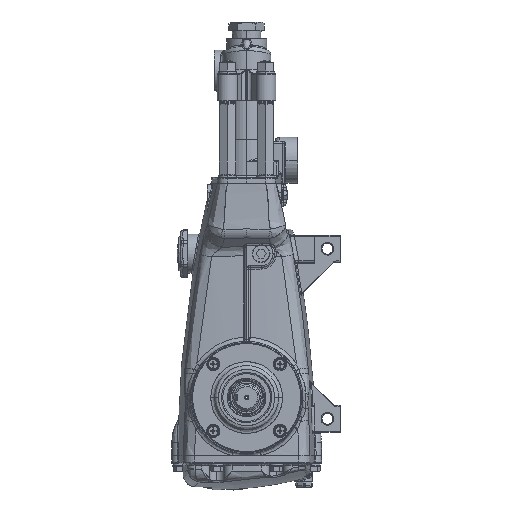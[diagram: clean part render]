
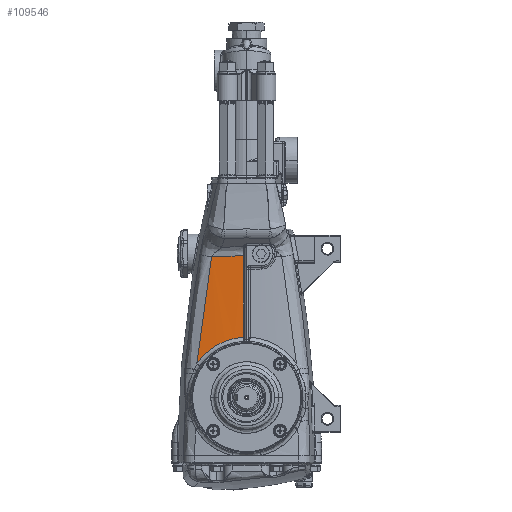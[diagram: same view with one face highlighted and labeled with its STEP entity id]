
A CAD part, left-side view. The second image highlights one B-rep face of the part: STEP entity #109546.
In plain terms, the highlighted cylindrical face has radius 600 mm (diameter 1200 mm), a partial arc.
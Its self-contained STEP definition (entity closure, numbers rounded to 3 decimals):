
#7599 = CARTESIAN_POINT ( 'NONE',  ( -86.05, 48.33, 51.635 ) ) ;
#9714 = CARTESIAN_POINT ( 'NONE',  ( -86.321, 45.021, 144.421 ) ) ;
#10748 = CARTESIAN_POINT ( 'NONE',  ( -87.819, 14.76, 69.427 ) ) ;
#11515 = CARTESIAN_POINT ( 'NONE',  ( -87.654, 20.377, 67.964 ) ) ;
#11632 = AXIS2_PLACEMENT_3D ( 'NONE', #122370, #142412, #160794 ) ;
#19032 = CARTESIAN_POINT ( 'NONE',  ( -86.584, 41.2, 165.335 ) ) ;
#19084 = CARTESIAN_POINT ( 'NONE',  ( -87.987, 3.987, 70.887 ) ) ;
#23692 = CARTESIAN_POINT ( 'NONE',  ( -85.44, 55.396, 43.915 ) ) ;
#24465 = CARTESIAN_POINT ( 'NONE',  ( -86.916, 36.057, 60.987 ) ) ;
#30466 = CARTESIAN_POINT ( 'NONE',  ( -86.584, 41.2, 165.335 ) ) ;
#37155 = CARTESIAN_POINT ( 'NONE',  ( -87.987, 3.987, 166.773 ) ) ;
#43728 = B_SPLINE_CURVE_WITH_KNOTS ( 'NONE', 3,
 ( #30466, #9714, #139629, #157990, #48153, #100446 ),
 .UNSPECIFIED., .F., .F.,
 ( 4, 2, 4 ),
 ( 0., 0.5, 1. ),
 .UNSPECIFIED. ) ;
#44226 = FACE_OUTER_BOUND ( 'NONE', #110886, .T. ) ;
#45267 = CARTESIAN_POINT ( 'NONE',  ( -86.8, 37.932, 59.823 ) ) ;
#45890 = CARTESIAN_POINT ( 'NONE',  ( -85.139, 58.523, 39.48 ) ) ;
#46049 = CARTESIAN_POINT ( 'NONE',  ( -87.709, 18.737, 68.454 ) ) ;
#46847 = CARTESIAN_POINT ( 'NONE',  ( -87.987, 3.987, 70.887 ) ) ;
#47620 = CARTESIAN_POINT ( 'NONE',  ( -87.116, 32.651, 62.966 ) ) ;
#48153 = CARTESIAN_POINT ( 'NONE',  ( -85.331, 56.568, 60.517 ) ) ;
#48420 = CARTESIAN_POINT ( 'NONE',  ( -87.62, 21.352, 67.659 ) ) ;
#53336 = ORIENTED_EDGE ( 'NONE', *, *, #226911, .T. ) ;
#56527 = VERTEX_POINT ( 'NONE', #45890 ) ;
#66534 = VECTOR ( 'NONE', #196397, 1000. ) ;
#66814 = CARTESIAN_POINT ( 'NONE',  ( -87.499, 24.573, 66.564 ) ) ;
#79558 = EDGE_CURVE ( 'NONE', #56527, #159583, #176334, .T. ) ;
#83781 = CARTESIAN_POINT ( 'NONE',  ( -87.643, 20.702, 67.864 ) ) ;
#86646 = LINE ( 'NONE', #214858, #66534 ) ;
#97552 = CARTESIAN_POINT ( 'NONE',  ( -85.872, 50.494, 49.491 ) ) ;
#98848 = CYLINDRICAL_SURFACE ( 'NONE', #11632, 600. ) ;
#100446 = CARTESIAN_POINT ( 'NONE',  ( -85.139, 58.523, 39.48 ) ) ;
#101455 = CARTESIAN_POINT ( 'NONE',  ( -87.969, 6.705, 70.733 ) ) ;
#103004 = CARTESIAN_POINT ( 'NONE',  ( -86.968, 35.179, 61.504 ) ) ;
#103871 = CARTESIAN_POINT ( 'NONE',  ( -86.584, 41.2, 165.335 ) ) ;
#109546 = ADVANCED_FACE ( 'NONE', ( #44226 ), #98848, .T. ) ;
#110886 = EDGE_LOOP ( 'NONE', ( #53336, #122102, #217223, #178811 ) ) ;
#111807 = VERTEX_POINT ( 'NONE', #19032 ) ;
#115928 = CARTESIAN_POINT ( 'NONE',  ( -86.23, 46.09, 53.747 ) ) ;
#116729 = CARTESIAN_POINT ( 'NONE',  ( -86.854, 37.073, 60.37 ) ) ;
#119075 = CARTESIAN_POINT ( 'NONE',  ( -87.417, 26.467, 65.81 ) ) ;
#121414 = CARTESIAN_POINT ( 'NONE',  ( -87.932, 9.405, 70.42 ) ) ;
#122102 = ORIENTED_EDGE ( 'NONE', *, *, #79558, .T. ) ;
#122370 = CARTESIAN_POINT ( 'NONE',  ( 512., 0., 167.537 ) ) ;
#132781 = CARTESIAN_POINT ( 'NONE',  ( -87.987, 3.987, 166.773 ) ) ;
#133596 = CARTESIAN_POINT ( 'NONE',  ( -85.287, 57.019, 41.748 ) ) ;
#135971 = CARTESIAN_POINT ( 'NONE',  ( -86.001, 48.941, 51.048 ) ) ;
#137558 = CARTESIAN_POINT ( 'NONE',  ( -87.769, 16.757, 68.984 ) ) ;
#139629 = CARTESIAN_POINT ( 'NONE',  ( -86.054, 48.374, 123.475 ) ) ;
#142412 = DIRECTION ( 'NONE',  ( 0., 0., -1. ) ) ;
#152021 = CARTESIAN_POINT ( 'NONE',  ( -85.674, 52.786, 47.012 ) ) ;
#152786 = CARTESIAN_POINT ( 'NONE',  ( -86.942, 35.618, 61.247 ) ) ;
#153566 = CARTESIAN_POINT ( 'NONE',  ( -86.959, 35.325, 61.42 ) ) ;
#154861 = B_SPLINE_CURVE_WITH_KNOTS ( 'NONE', 3,
 ( #132781, #159130, #216791, #103871 ),
 .UNSPECIFIED., .F., .F.,
 ( 4, 4 ),
 ( 0., 1. ),
 .UNSPECIFIED. ) ;
#157990 = CARTESIAN_POINT ( 'NONE',  ( -85.559, 54.148, 81.524 ) ) ;
#159130 = CARTESIAN_POINT ( 'NONE',  ( -87.904, 16.397, 166.689 ) ) ;
#159583 = VERTEX_POINT ( 'NONE', #19084 ) ;
#160794 = DIRECTION ( 'NONE',  ( -1., 0., 0. ) ) ;
#172800 = CARTESIAN_POINT ( 'NONE',  ( -86.06, 48.208, 51.751 ) ) ;
#173827 = EDGE_CURVE ( 'NONE', #159583, #234666, #86646, .T. ) ;
#176334 = B_SPLINE_CURVE_WITH_KNOTS ( 'NONE', 3,
 ( #224971, #133596, #23692, #152021, #207279, #97552, #227360, #135971, #225771, #7599, #172800, #115928, #191202, #228136, #226577, #45267, #116729, #24465, #152786, #153566, #103004, #47620, #231246, #119075, #66814, #210405, #48420, #83781, #11515, #46049, #137558, #10748, #192735, #195105, #121414, #101455, #46847 ),
 .UNSPECIFIED., .F., .F.,
 ( 4, 2, 2, 1, 1, 2, 2, 2, 2, 1, 1, 2, 2, 2, 1, 1, 2, 2, 1, 2, 2, 4 ),
 ( 0., 0.125, 0.188, 0.219, 0.234, 0.242, 0.25, 0.375, 0.438, 0.469, 0.484, 0.492, 0.5, 0.625, 0.688, 0.719, 0.734, 0.75, 0.813, 0.844, 0.875, 1. ),
 .UNSPECIFIED. ) ;
#178811 = ORIENTED_EDGE ( 'NONE', *, *, #184474, .T. ) ;
#184474 = EDGE_CURVE ( 'NONE', #234666, #111807, #154861, .T. ) ;
#191202 = CARTESIAN_POINT ( 'NONE',  ( -86.388, 44.006, 55.496 ) ) ;
#192735 = CARTESIAN_POINT ( 'NONE',  ( -87.85, 13.425, 69.702 ) ) ;
#195105 = CARTESIAN_POINT ( 'NONE',  ( -87.865, 12.754, 69.83 ) ) ;
#196397 = DIRECTION ( 'NONE',  ( 0., 0., 1. ) ) ;
#207279 = CARTESIAN_POINT ( 'NONE',  ( -85.753, 51.887, 48.019 ) ) ;
#210405 = CARTESIAN_POINT ( 'NONE',  ( -87.585, 22.324, 67.345 ) ) ;
#214858 = CARTESIAN_POINT ( 'NONE',  ( -87.987, 3.987, 167.537 ) ) ;
#216791 = CARTESIAN_POINT ( 'NONE',  ( -87.437, 28.809, 166.209 ) ) ;
#217223 = ORIENTED_EDGE ( 'NONE', *, *, #173827, .T. ) ;
#224971 = CARTESIAN_POINT ( 'NONE',  ( -85.139, 58.523, 39.48 ) ) ;
#225771 = CARTESIAN_POINT ( 'NONE',  ( -86.031, 48.575, 51.401 ) ) ;
#226577 = CARTESIAN_POINT ( 'NONE',  ( -86.691, 39.632, 58.704 ) ) ;
#226911 = EDGE_CURVE ( 'NONE', #111807, #56527, #43728, .T. ) ;
#227360 = CARTESIAN_POINT ( 'NONE',  ( -85.931, 49.786, 50.217 ) ) ;
#228136 = CARTESIAN_POINT ( 'NONE',  ( -86.616, 40.742, 57.926 ) ) ;
#231246 = CARTESIAN_POINT ( 'NONE',  ( -87.244, 30.213, 64.192 ) ) ;
#234666 = VERTEX_POINT ( 'NONE', #37155 ) ;
